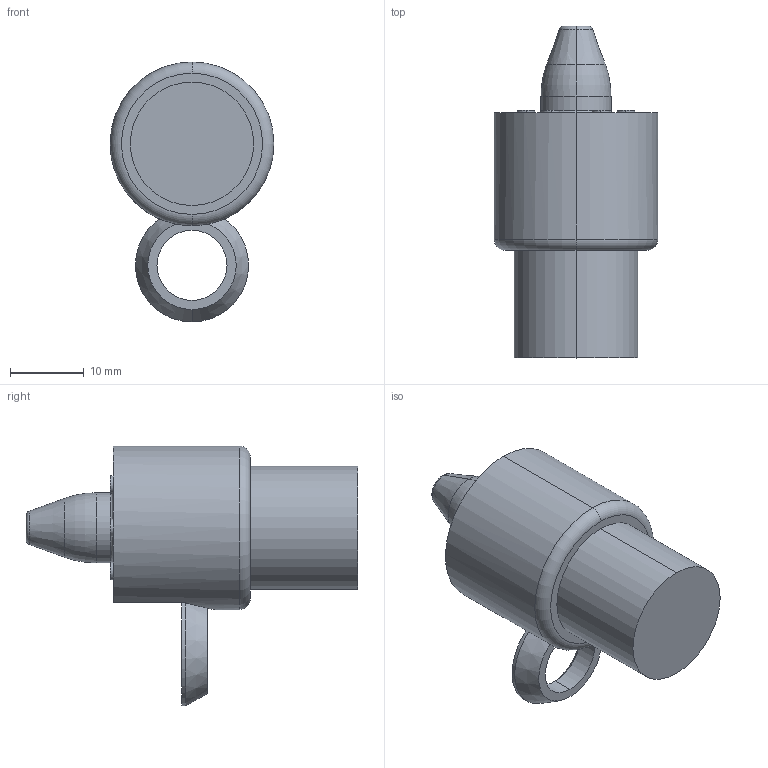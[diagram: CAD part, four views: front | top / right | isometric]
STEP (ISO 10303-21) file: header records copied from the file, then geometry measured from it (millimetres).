
FILE_DESCRIPTION (( 'STEP AP214' ), '1' );
FILE_NAME ('PA-.375-.075-P-F1.stp', '2020-05-01T17:22:14', ( '' ), ( '' ), 'SwSTEP 2.0', 'SolidWorks 2017', '' );
FILE_SCHEMA (( 'AUTOMOTIVE_DESIGN' ));
Length unit declared in the file: inch
Products named in the file (1): PA-.375-.075-P-F1
Bounding box: 22.23 x 45.09 x 35.32 mm (x, y, z)
Volume: 11155.1 mm3; surface area: 3467.1 mm2
Topology: 2 solids, 2 shells, 52 faces, 105 edges, 65 vertices
Faces by surface type: cylinder 23, plane 12, torus 9, cone 8
Entity records: 1462 total; most frequent: DIRECTION 277, CARTESIAN_POINT 259, ORIENTED_EDGE 210, AXIS2_PLACEMENT_3D 123, EDGE_CURVE 105, CIRCLE 70, VERTEX_POINT 65, EDGE_LOOP 62
